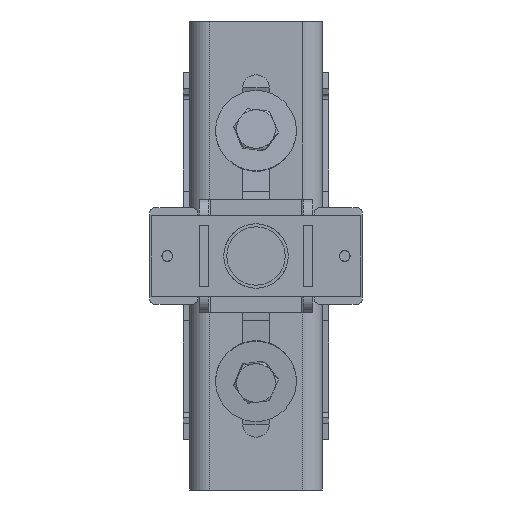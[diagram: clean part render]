
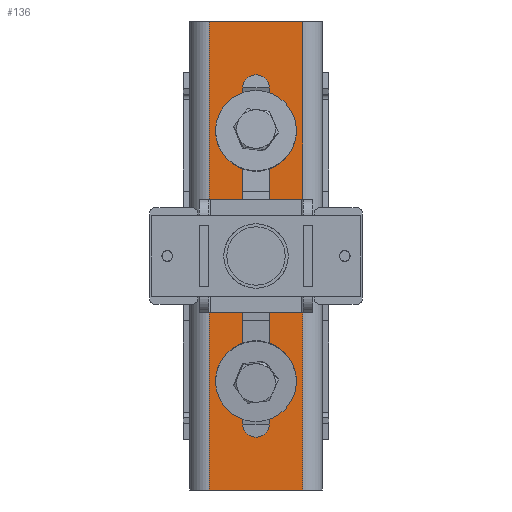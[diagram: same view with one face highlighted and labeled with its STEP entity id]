
A CAD part, front view. The second image highlights one B-rep face of the part: STEP entity #136.
In plain terms, the highlighted planar face has unit normal (0, -1, 0).
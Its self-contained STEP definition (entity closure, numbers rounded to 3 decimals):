
#136 = ADVANCED_FACE ( 'NONE', ( #4903, #4863, #4900, #4908 ), #14328, .F. ) ;
#1003 = CARTESIAN_POINT ( 'NONE',  ( 0., -19.92, 229.014 ) ) ;
#1020 = DIRECTION ( 'NONE',  ( -1., 0., 0. ) ) ;
#1022 = CARTESIAN_POINT ( 'NONE',  ( -35., -19.92, -20. ) ) ;
#1070 = DIRECTION ( 'NONE',  ( 0., 0., -1. ) ) ;
#1072 = CARTESIAN_POINT ( 'NONE',  ( 29., -19.92, 250. ) ) ;
#1098 = DIRECTION ( 'NONE',  ( 1., 0., 0. ) ) ;
#1115 = CARTESIAN_POINT ( 'NONE',  ( 0., -19.92, 90. ) ) ;
#1146 = CARTESIAN_POINT ( 'NONE',  ( 0., -19.92, 125. ) ) ;
#1150 = DIRECTION ( 'NONE',  ( 0., 0., 1. ) ) ;
#1151 = DIRECTION ( 'NONE',  ( 0., -1., 0. ) ) ;
#1167 = DIRECTION ( 'NONE',  ( 0., 0., -1. ) ) ;
#1169 = DIRECTION ( 'NONE',  ( 0., -1., 0. ) ) ;
#1173 = DIRECTION ( 'NONE',  ( 1., 0., 0. ) ) ;
#1175 = CARTESIAN_POINT ( 'NONE',  ( -8.25, -19.92, 250. ) ) ;
#1177 = DIRECTION ( 'NONE',  ( 0., -1., 0. ) ) ;
#1178 = DIRECTION ( 'NONE',  ( 0., 0., -1. ) ) ;
#1179 = CARTESIAN_POINT ( 'NONE',  ( 0., -19.92, 20.986 ) ) ;
#1180 = CARTESIAN_POINT ( 'NONE',  ( 8.25, -19.92, 250. ) ) ;
#1195 = DIRECTION ( 'NONE',  ( 0., 0., 1. ) ) ;
#1238 = CARTESIAN_POINT ( 'NONE',  ( -29., -19.92, 250. ) ) ;
#1242 = DIRECTION ( 'NONE',  ( 0., 0., 1. ) ) ;
#1257 = DIRECTION ( 'NONE',  ( 0., -1., 0. ) ) ;
#1259 = CARTESIAN_POINT ( 'NONE',  ( 0., -19.92, 160. ) ) ;
#1350 = CARTESIAN_POINT ( 'NONE',  ( 8.25, -19.92, 250. ) ) ;
#1355 = DIRECTION ( 'NONE',  ( 0., 0., 1. ) ) ;
#1380 = DIRECTION ( 'NONE',  ( 1., 0., 0. ) ) ;
#1387 = CARTESIAN_POINT ( 'NONE',  ( -35., -19.92, 270. ) ) ;
#1711 = CARTESIAN_POINT ( 'NONE',  ( 0., -19.92, 145. ) ) ;
#1750 = CARTESIAN_POINT ( 'NONE',  ( 0., -19.92, 105. ) ) ;
#1859 = VECTOR ( 'NONE', #1195, 1000. ) ;
#1901 = CIRCLE ( 'NONE', #12063, 8.25 ) ;
#1931 = LINE ( 'NONE', #1350, #1934 ) ;
#1933 = CIRCLE ( 'NONE', #13541, 8.25 ) ;
#1934 = VECTOR ( 'NONE', #1355, 1000. ) ;
#1937 = CIRCLE ( 'NONE', #13529, 8.25 ) ;
#1942 = LINE ( 'NONE', #1175, #1945 ) ;
#1944 = CIRCLE ( 'NONE', #13520, 8.25 ) ;
#1945 = VECTOR ( 'NONE', #1178, 1000. ) ;
#1946 = CIRCLE ( 'NONE', #13515, 20. ) ;
#1950 = LINE ( 'NONE', #1180, #1859 ) ;
#2058 = DIRECTION ( 'NONE',  ( 0., -1., 0. ) ) ;
#2059 = DIRECTION ( 'NONE',  ( 0., 0., 1. ) ) ;
#2330 = CARTESIAN_POINT ( 'NONE',  ( 0., -19.92, 90. ) ) ;
#2331 = DIRECTION ( 'NONE',  ( 0., -1., 0. ) ) ;
#2332 = DIRECTION ( 'NONE',  ( 0., 0., 1. ) ) ;
#2614 = CARTESIAN_POINT ( 'NONE',  ( -8.25, -19.92, 250. ) ) ;
#2615 = DIRECTION ( 'NONE',  ( 0., 0., -1. ) ) ;
#2831 = CARTESIAN_POINT ( 'NONE',  ( 0., -19.92, 125. ) ) ;
#2832 = DIRECTION ( 'NONE',  ( 0., -1., 0. ) ) ;
#2833 = DIRECTION ( 'NONE',  ( 0., 0., -1. ) ) ;
#3956 = VERTEX_POINT ( 'NONE', #1750 ) ;
#3985 = VERTEX_POINT ( 'NONE', #1711 ) ;
#4048 = CIRCLE ( 'NONE', #13546, 20. ) ;
#4510 = VECTOR ( 'NONE', #2615, 1000. ) ;
#4511 = LINE ( 'NONE', #2614, #4510 ) ;
#4863 = FACE_BOUND ( 'NONE', #5274, .T. ) ;
#4900 = FACE_BOUND ( 'NONE', #5380, .T. ) ;
#4903 = FACE_BOUND ( 'NONE', #5375, .T. ) ;
#4908 = FACE_OUTER_BOUND ( 'NONE', #5370, .T. ) ;
#5274 = EDGE_LOOP ( 'NONE', ( #8423, #8424, #8425, #8426, #8570 ) ) ;
#5370 = EDGE_LOOP ( 'NONE', ( #8455, #8457, #8459, #7800 ) ) ;
#5375 = EDGE_LOOP ( 'NONE', ( #8421, #8422 ) ) ;
#5380 = EDGE_LOOP ( 'NONE', ( #8427, #8428, #8429, #8451 ) ) ;
#6292 = CARTESIAN_POINT ( 'NONE',  ( 8.25, -19.92, 20.986 ) ) ;
#6295 = CARTESIAN_POINT ( 'NONE',  ( -29., -19.92, 270. ) ) ;
#6299 = CARTESIAN_POINT ( 'NONE',  ( -8.25, -19.92, 160. ) ) ;
#6300 = CARTESIAN_POINT ( 'NONE',  ( -8.25, -19.92, 90. ) ) ;
#6302 = CARTESIAN_POINT ( 'NONE',  ( -8.25, -19.92, 229.014 ) ) ;
#6307 = CARTESIAN_POINT ( 'NONE',  ( 8.25, -19.92, 229.014 ) ) ;
#6309 = CARTESIAN_POINT ( 'NONE',  ( 8.25, -19.92, 160. ) ) ;
#6312 = CARTESIAN_POINT ( 'NONE',  ( -8.25, -19.92, 20.986 ) ) ;
#6314 = CARTESIAN_POINT ( 'NONE',  ( 29., -19.92, -20. ) ) ;
#6320 = CARTESIAN_POINT ( 'NONE',  ( 29., -19.92, 270. ) ) ;
#6321 = CARTESIAN_POINT ( 'NONE',  ( 0., -19.92, 98.25 ) ) ;
#6323 = CARTESIAN_POINT ( 'NONE',  ( -29., -19.92, -20. ) ) ;
#6329 = CARTESIAN_POINT ( 'NONE',  ( 8.25, -19.92, 90. ) ) ;
#7800 = ORIENTED_EDGE ( 'NONE', *, *, #9719, .F. ) ;
#8421 = ORIENTED_EDGE ( 'NONE', *, *, #10057, .F. ) ;
#8422 = ORIENTED_EDGE ( 'NONE', *, *, #9803, .F. ) ;
#8423 = ORIENTED_EDGE ( 'NONE', *, *, #9798, .F. ) ;
#8424 = ORIENTED_EDGE ( 'NONE', *, *, #9807, .F. ) ;
#8425 = ORIENTED_EDGE ( 'NONE', *, *, #9806, .F. ) ;
#8426 = ORIENTED_EDGE ( 'NONE', *, *, #9801, .F. ) ;
#8427 = ORIENTED_EDGE ( 'NONE', *, *, #9810, .F. ) ;
#8428 = ORIENTED_EDGE ( 'NONE', *, *, #9981, .F. ) ;
#8429 = ORIENTED_EDGE ( 'NONE', *, *, #9658, .F. ) ;
#8451 = ORIENTED_EDGE ( 'NONE', *, *, #9809, .F. ) ;
#8455 = ORIENTED_EDGE ( 'NONE', *, *, #9702, .F. ) ;
#8457 = ORIENTED_EDGE ( 'NONE', *, *, #9695, .F. ) ;
#8459 = ORIENTED_EDGE ( 'NONE', *, *, #9737, .F. ) ;
#8570 = ORIENTED_EDGE ( 'NONE', *, *, #9903, .F. ) ;
#9658 = EDGE_CURVE ( 'NONE', #10883, #10876, #13997, .T. ) ;
#9695 = EDGE_CURVE ( 'NONE', #10872, #10899, #14012, .T. ) ;
#9702 = EDGE_CURVE ( 'NONE', #10899, #10891, #13578, .T. ) ;
#9719 = EDGE_CURVE ( 'NONE', #10891, #10903, #13537, .T. ) ;
#9737 = EDGE_CURVE ( 'NONE', #10903, #10872, #13700, .T. ) ;
#9798 = EDGE_CURVE ( 'NONE', #10867, #10912, #1931, .T. ) ;
#9801 = EDGE_CURVE ( 'NONE', #10907, #10880, #1933, .T. ) ;
#9803 = EDGE_CURVE ( 'NONE', #3985, #3956, #1946, .T. ) ;
#9806 = EDGE_CURVE ( 'NONE', #10880, #10896, #1942, .T. ) ;
#9807 = EDGE_CURVE ( 'NONE', #10896, #10867, #1944, .T. ) ;
#9809 = EDGE_CURVE ( 'NONE', #10892, #10883, #1950, .T. ) ;
#9810 = EDGE_CURVE ( 'NONE', #10871, #10892, #1937, .T. ) ;
#9903 = EDGE_CURVE ( 'NONE', #10912, #10907, #1901, .T. ) ;
#9981 = EDGE_CURVE ( 'NONE', #10876, #10871, #4511, .T. ) ;
#10057 = EDGE_CURVE ( 'NONE', #3956, #3985, #4048, .T. ) ;
#10867 = VERTEX_POINT ( 'NONE', #6292 ) ;
#10871 = VERTEX_POINT ( 'NONE', #6299 ) ;
#10872 = VERTEX_POINT ( 'NONE', #6295 ) ;
#10876 = VERTEX_POINT ( 'NONE', #6302 ) ;
#10880 = VERTEX_POINT ( 'NONE', #6300 ) ;
#10883 = VERTEX_POINT ( 'NONE', #6307 ) ;
#10891 = VERTEX_POINT ( 'NONE', #6314 ) ;
#10892 = VERTEX_POINT ( 'NONE', #6309 ) ;
#10896 = VERTEX_POINT ( 'NONE', #6312 ) ;
#10899 = VERTEX_POINT ( 'NONE', #6320 ) ;
#10903 = VERTEX_POINT ( 'NONE', #6323 ) ;
#10907 = VERTEX_POINT ( 'NONE', #6321 ) ;
#10912 = VERTEX_POINT ( 'NONE', #6329 ) ;
#12063 = AXIS2_PLACEMENT_3D ( 'NONE', #2330, #2331, #2332 ) ;
#12383 = AXIS2_PLACEMENT_3D ( 'NONE', #14326, #14329, #14323 ) ;
#13486 = VECTOR ( 'NONE', #1070, 1000. ) ;
#13515 = AXIS2_PLACEMENT_3D ( 'NONE', #1146, #1169, #1167 ) ;
#13520 = AXIS2_PLACEMENT_3D ( 'NONE', #1179, #1177, #1173 ) ;
#13529 = AXIS2_PLACEMENT_3D ( 'NONE', #1259, #2058, #2059 ) ;
#13537 = LINE ( 'NONE', #1022, #13761 ) ;
#13541 = AXIS2_PLACEMENT_3D ( 'NONE', #1115, #1151, #1150 ) ;
#13546 = AXIS2_PLACEMENT_3D ( 'NONE', #2831, #2832, #2833 ) ;
#13578 = LINE ( 'NONE', #1072, #13486 ) ;
#13623 = AXIS2_PLACEMENT_3D ( 'NONE', #1003, #1257, #1098 ) ;
#13700 = LINE ( 'NONE', #1238, #13710 ) ;
#13710 = VECTOR ( 'NONE', #1242, 1000. ) ;
#13761 = VECTOR ( 'NONE', #1020, 1000. ) ;
#13997 = CIRCLE ( 'NONE', #13623, 8.25 ) ;
#14012 = LINE ( 'NONE', #1387, #14070 ) ;
#14070 = VECTOR ( 'NONE', #1380, 1000. ) ;
#14323 = DIRECTION ( 'NONE',  ( -1., 0., 0. ) ) ;
#14326 = CARTESIAN_POINT ( 'NONE',  ( -35., -19.92, 250. ) ) ;
#14328 = PLANE ( 'NONE',  #12383 ) ;
#14329 = DIRECTION ( 'NONE',  ( 0., 1., 0. ) ) ;
